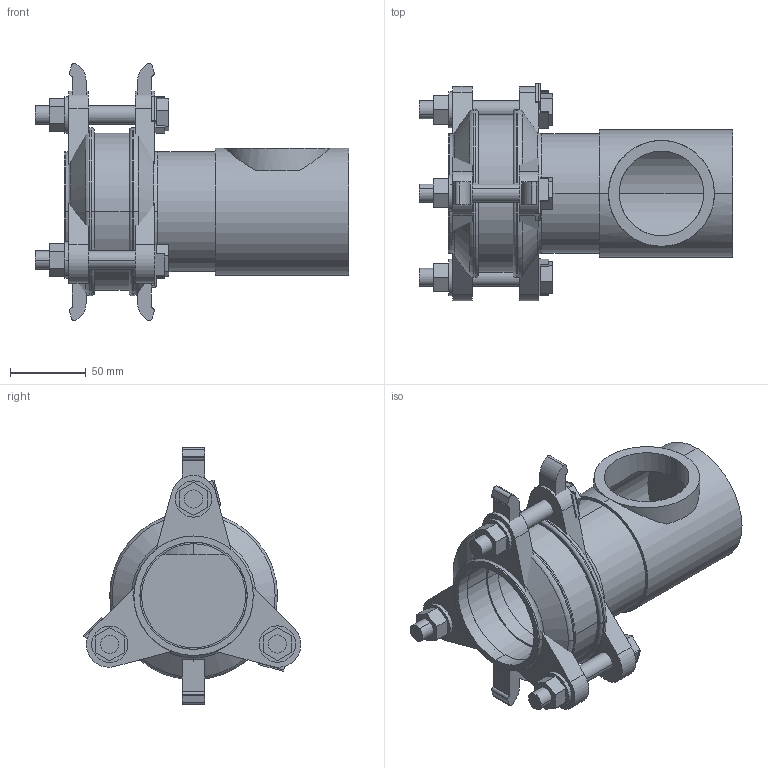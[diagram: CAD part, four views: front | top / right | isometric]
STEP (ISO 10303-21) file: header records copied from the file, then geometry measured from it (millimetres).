
FILE_DESCRIPTION(('STEP AP214'),'1');
FILE_NAME('HDA0003030 DN 50 radial.STP','2015-02-06T10:06:43',(' '),(' '),'Spatial InterOp 3D',' ',' ');
FILE_SCHEMA(('automotive_design'));
Length unit declared in the file: millimetre
Products named in the file (34): 3D-Objekt
Bounding box: 207 x 143.81 x 170 mm (x, y, z)
Volume: 638493.6 mm3; surface area: 224350 mm2
Topology: 34 solids, 34 shells, 283 faces, 637 edges, 422 vertices
Faces by surface type: plane 184, cylinder 79, torus 12, cone 8
Entity records: 11328 total; most frequent: CARTESIAN_POINT 1739, DIRECTION 1467, ORIENTED_EDGE 1274, EDGE_CURVE 637, AXIS2_PLACEMENT_3D 523, VERTEX_POINT 422, LINE 421, VECTOR 421
